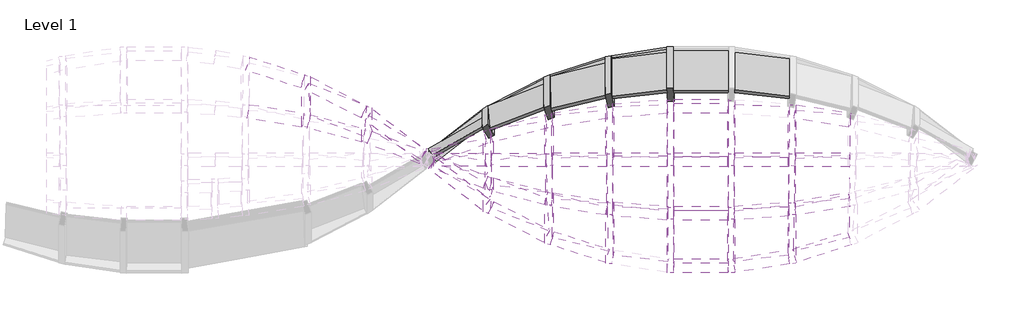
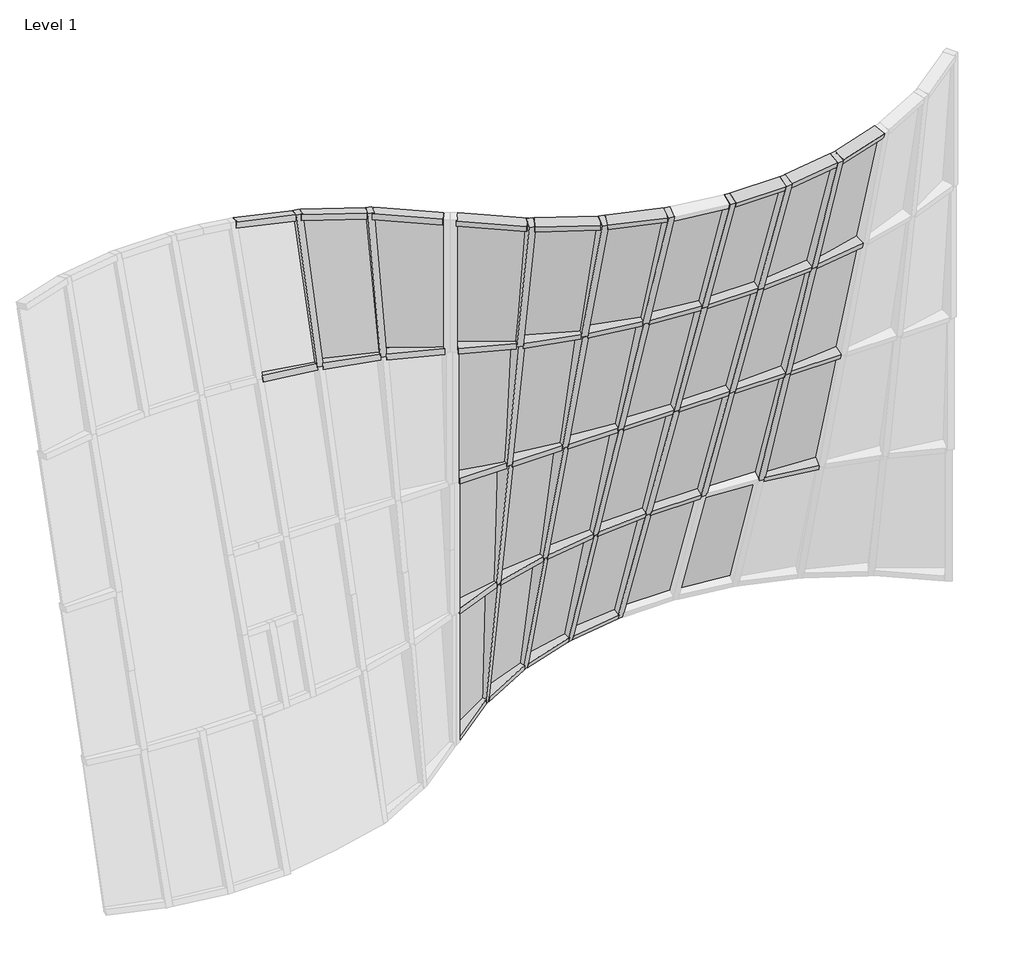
# One storey, part 3 of 4: 60 members, 29 plates.
"""IFC4 building model written with IfcOpenShell, lengths in millimetres."""

from ifc_helpers import new_model, si_unit, origin, place, context, project, spatial, transform, mapped, element, save
from components import member_a996ce90, member_d50c8e34, member_4dd012e6, member_aebc5ed7, member_4cc729dc, member_c1705524, member_86815d37, member_7daf6d23, member_30bdb196, member_c58220af, member_a980948f, member_15c85785, member_6b4bb7dc, member_0a1a1ade, member_aaa03826, system_panel_glazed_6544bf7d, system_panel_glazed_33264784, system_panel_glazed_05b2a0f3, system_panel_glazed_f471192b, system_panel_glazed_7af170c0, system_panel_glazed_9d068737, system_panel_glazed_79271b8f, system_panel_glazed_da246a73, system_panel_glazed_13de8e61, system_panel_glazed_0ddebd79, system_panel_glazed_23b24e75, system_panel_glazed_40e690b2, system_panel_glazed_50119bff, system_panel_glazed_afc54b63, system_panel_glazed_be022af0, system_panel_glazed_1bc72f1c, system_panel_glazed_f1b1a658, system_panel_glazed_3298cdbc, system_panel_glazed_6a02450f, system_panel_glazed_dcd4434c, system_panel_glazed_1b8318ba, system_panel_glazed_7fcf35bf, system_panel_glazed_b76e6c00, system_panel_glazed_0f1dc422, system_panel_glazed_e9c23bf2, system_panel_glazed_1bf29829, system_panel_glazed_93994c43

model = new_model("IFC4")

# Units and contexts
model_context = context("Model", 3, world=origin())
ifc_project = project(units=[si_unit("LENGTHUNIT", "METRE", prefix="MILLI")], contexts=[model_context])

# Site, building, storey
site = spatial("IfcSite", under=ifc_project)
building = spatial("IfcBuilding", under=site)
storey = spatial("IfcBuildingStorey", under=building, Name="Level 1", Elevation=0.0)

# Members
placement = place(None, origin())
member_shape = member_a996ce90(model_context)
element("IfcMember", 1, ObjectType="Rectangular Mullion : 2.5\" x 5\" rectangular", at=placement, inside=storey, context=model_context, shape_type="MappedRepresentation", body=[
    mapped(member_shape, transform((-21956.9397927, 10838.1323132, 6096.0), x_axis=(-0.04115165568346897, -0.053251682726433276, 0.99773282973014), y_axis=(0.6100856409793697, 0.7894721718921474, 0.06729933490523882), z_axis=(-0.7912661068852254, 0.6114719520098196, 0.0))),
])
element("IfcMember", 2, ObjectType="Rectangular Mullion : 2.5\" x 5\" rectangular", at=placement, inside=storey, context=model_context, shape_type="MappedRepresentation", body=[
    mapped(member_shape, transform((-22591.6624916, 11328.6311787, 6096.0), x_axis=(0.04115165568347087, 0.0532516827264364, 0.9977328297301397), y_axis=(0.6100856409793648, 0.7894721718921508, -0.06729933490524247), z_axis=(-0.7912661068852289, 0.6114719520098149, 0.0))),
])
member_2_shape = member_d50c8e34(model_context)
element("IfcMember", 3, ObjectType="Rectangular Mullion : 2.5\" x 5\" rectangular", at=placement, inside=storey, context=model_context, shape_type="MappedRepresentation", body=[
    mapped(member_2_shape, transform((-18318.235423, 11362.3037626, 1524.0), x_axis=(-0.04785641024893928, -0.2985412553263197, 0.9531961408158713), y_axis=(0.1508719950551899, 0.941180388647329, 0.30235263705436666), z_axis=(-0.9873942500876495, 0.15828011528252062, 0.0))),
])
element("IfcMember", 4, ObjectType="Rectangular Mullion : 2.5\" x 5\" rectangular", at=placement, inside=storey, context=model_context, shape_type="MappedRepresentation", body=[
    mapped(member_2_shape, transform((-23804.635423, 11362.3037626, 4572.0), x_axis=(0.04785641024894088, 0.29854125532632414, 0.9531961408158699), y_axis=(0.1508719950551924, 0.9411803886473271, -0.30235263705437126), z_axis=(-0.9873942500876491, 0.1582801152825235, 0.0))),
])
member_3_shape = member_4dd012e6(model_context)
element("IfcMember", 5, ObjectType="Rectangular Mullion : 2.5\" x 5\" rectangular", at=placement, inside=storey, context=model_context, shape_type="MappedRepresentation", body=[
    mapped(member_3_shape, transform((-22587.1690954, 11101.0597847, 4572.0), x_axis=(0.05046578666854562, 0.1306089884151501, 0.9901487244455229), y_axis=(0.35686871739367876, 0.9236012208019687, -0.1400196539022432), z_axis=(-0.9327903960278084, 0.36041930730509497, 0.0))),
])
member_4_shape = member_aebc5ed7(model_context)
element("IfcMember", 6, ObjectType="Rectangular Mullion : 2.5\" x 5\" rectangular", at=placement, inside=storey, context=model_context, shape_type="MappedRepresentation", body=[
    mapped(member_4_shape, transform((-23195.6398311, 11261.6860495, 4572.0), x_axis=(0.060122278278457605, 0.2332844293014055, 0.9705481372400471), y_axis=(0.24221587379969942, 0.939837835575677, -0.24090727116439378), z_axis=(-0.9683577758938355, 0.2495660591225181, 0.0))),
])
member_5_shape = member_4cc729dc(model_context)
element("IfcMember", 7, ObjectType="Rectangular Mullion : 2.5\" x 5\" rectangular", at=placement, inside=storey, context=model_context, shape_type="MappedRepresentation", body=[
    mapped(member_5_shape, transform((-21397.5851905, 11112.5030977, 1524.0), x_axis=(-0.954910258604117, -0.29341086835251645, -0.045348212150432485), y_axis=(-0.2968945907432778, 0.9437054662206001, 0.1458547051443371), z_axis=(0.0, 0.15274179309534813, -0.988266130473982))),
])
member_6_shape = member_c1705524(model_context)
element("IfcMember", 8, ObjectType="Rectangular Mullion : 2.5\" x 5\" rectangular", at=placement, inside=storey, context=model_context, shape_type="MappedRepresentation", body=[
    mapped(member_6_shape, transform((-20787.9851905, 10484.3117925, 4572.0), x_axis=(-0.9807393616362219, 0.18914416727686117, 0.04873180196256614), y_axis=(0.1953210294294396, 0.9497243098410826, 0.24469047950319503), z_axis=(0.0, 0.2494959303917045, -0.9683758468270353))),
])
element("IfcMember", 9, ObjectType="Rectangular Mullion : 2.5\" x 5\" rectangular", at=placement, inside=storey, context=model_context, shape_type="MappedRepresentation", body=[
    mapped(member_6_shape, transform((-20787.9851905, 10876.9607822, 3048.0), x_axis=(-1.0, 0.0, 0.0), y_axis=(0.0, 0.968375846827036, 0.24949593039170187), z_axis=(0.0, 0.24949593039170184, -0.9683758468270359))),
])
element("IfcMember", 10, ObjectType="Rectangular Mullion : 2.5\" x 5\" rectangular", at=placement, inside=storey, context=model_context, shape_type="MappedRepresentation", body=[
    mapped(member_6_shape, transform((-20787.9851905, 11269.6097719, 1524.0), x_axis=(-0.9807393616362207, -0.18914416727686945, -0.0487318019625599), y_axis=(-0.19532102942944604, 0.9497243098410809, 0.24469047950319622), z_axis=(0.0, 0.24949593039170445, -0.9683758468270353))),
])
member_7_shape = member_86815d37(model_context)
element("IfcMember", 11, ObjectType="Rectangular Mullion : 2.5\" x 5\" rectangular", at=placement, inside=storey, context=model_context, shape_type="MappedRepresentation", body=[
    mapped(member_7_shape, transform((-20178.3851905, 10386.5924081, 4572.0), x_axis=(-0.9938324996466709, 0.10556171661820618, 0.033965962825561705), y_axis=(0.11089167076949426, 0.9460644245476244, 0.30440949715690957), z_axis=(0.0, 0.3062985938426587, -0.9519354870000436))),
])
element("IfcMember", 12, ObjectType="Rectangular Mullion : 2.5\" x 5\" rectangular", at=placement, inside=storey, context=model_context, shape_type="MappedRepresentation", body=[
    mapped(member_7_shape, transform((-20178.3851905, 10876.9607822, 3048.0), x_axis=(-1.0, 0.0, 0.0), y_axis=(0.0, 0.9519354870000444, 0.3062985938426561), z_axis=(0.0, 0.3062985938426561, -0.9519354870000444))),
])
element("IfcMember", 13, ObjectType="Rectangular Mullion : 2.5\" x 5\" rectangular", at=placement, inside=storey, context=model_context, shape_type="MappedRepresentation", body=[
    mapped(member_7_shape, transform((-18349.5851905, 10876.9607822, 3048.0), x_axis=(-1.0, 0.0, 0.0), y_axis=(0.0, 0.9519354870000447, 0.3062985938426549), z_axis=(0.0, 0.3062985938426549, -0.9519354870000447))),
])
element("IfcMember", 14, ObjectType="Rectangular Mullion : 2.5\" x 5\" rectangular", at=placement, inside=storey, context=model_context, shape_type="MappedRepresentation", body=[
    mapped(member_7_shape, transform((-18349.5851905, 11367.3291563, 1524.0), x_axis=(-0.9938324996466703, 0.10556171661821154, 0.03396596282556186), y_axis=(0.1108916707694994, 0.9460644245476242, 0.3044094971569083), z_axis=(0.0, 0.3062985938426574, -0.9519354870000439))),
])
element("IfcMember", 15, ObjectType="Rectangular Mullion : 2.5\" x 5\" rectangular", at=placement, inside=storey, context=model_context, shape_type="MappedRepresentation", body=[
    mapped(member_7_shape, transform((-20178.3851905, 11367.3291563, 1524.0), x_axis=(-0.9938324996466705, -0.10556171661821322, -0.03396596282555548), y_axis=(-0.11089167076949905, 0.9460644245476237, 0.30440949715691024), z_axis=(0.0, 0.3062985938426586, -0.9519354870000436))),
])
member_8_shape = member_7daf6d23(model_context)
element("IfcMember", 16, ObjectType="Rectangular Mullion : 2.5\" x 5\" rectangular", at=placement, inside=storey, context=model_context, shape_type="MappedRepresentation", body=[
    mapped(member_8_shape, transform((-19568.7851905, 10339.5247375, 4572.0), x_axis=(-0.999353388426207, 0.03390889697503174, 0.011957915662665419), y_axis=(0.03595559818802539, 0.942467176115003, 0.33235946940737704), z_axis=(0.0, 0.3325745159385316, -0.9430769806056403))),
])
element("IfcMember", 17, ObjectType="Rectangular Mullion : 2.5\" x 5\" rectangular", at=placement, inside=storey, context=model_context, shape_type="MappedRepresentation", body=[
    mapped(member_8_shape, transform((-19568.7851905, 10876.9607822, 3048.0), x_axis=(-1.0, 0.0, 0.0), y_axis=(0.0, 0.9430769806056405, 0.33257451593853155), z_axis=(0.0, 0.33257451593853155, -0.9430769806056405))),
])
element("IfcMember", 18, ObjectType="Rectangular Mullion : 2.5\" x 5\" rectangular", at=placement, inside=storey, context=model_context, shape_type="MappedRepresentation", body=[
    mapped(member_8_shape, transform((-18959.1851905, 10876.9607822, 3048.0), x_axis=(-1.0, 0.0, 0.0), y_axis=(0.0, 0.9430769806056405, 0.33257451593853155), z_axis=(0.0, 0.33257451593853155, -0.9430769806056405))),
])
element("IfcMember", 19, ObjectType="Rectangular Mullion : 2.5\" x 5\" rectangular", at=placement, inside=storey, context=model_context, shape_type="MappedRepresentation", body=[
    mapped(member_8_shape, transform((-18959.1851905, 11414.3968269, 1524.0), x_axis=(-0.9993533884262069, 0.03390889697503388, 0.01195791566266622), y_axis=(0.03595559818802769, 0.9424671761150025, 0.33235946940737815), z_axis=(0.0, 0.33257451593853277, -0.9430769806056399))),
])
element("IfcMember", 20, ObjectType="Rectangular Mullion : 2.5\" x 5\" rectangular", at=placement, inside=storey, context=model_context, shape_type="MappedRepresentation", body=[
    mapped(member_8_shape, transform((-19568.7851905, 11414.3968269, 1524.0), x_axis=(-0.9993533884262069, -0.03390889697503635, -0.011957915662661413), y_axis=(-0.03595559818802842, 0.9424671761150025, 0.33235946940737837), z_axis=(0.0, 0.33257451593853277, -0.9430769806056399))),
])
element("IfcMember", 21, ObjectType="Rectangular Mullion : 2.5\" x 5\" rectangular", at=placement, inside=storey, context=model_context, shape_type="MappedRepresentation", body=[
    mapped(member_8_shape, transform((-18959.1851905, 10339.5247375, 4572.0), x_axis=(-0.9993533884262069, -0.03390889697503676, -0.01195791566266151), y_axis=(-0.035955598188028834, 0.9424671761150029, 0.3323594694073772), z_axis=(0.0, 0.3325745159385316, -0.9430769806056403))),
])
element("IfcMember", 22, ObjectType="Rectangular Mullion : 2.5\" x 5\" rectangular", at=placement, inside=storey, context=model_context, shape_type="MappedRepresentation", body=[
    mapped(member_7_shape, transform((-18349.5851905, 10386.5924081, 4572.0), x_axis=(-0.9938324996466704, -0.10556171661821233, -0.0339659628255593), y_axis=(-0.11089167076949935, 0.946064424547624, 0.3044094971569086), z_axis=(0.0, 0.30629859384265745, -0.9519354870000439))),
])
element("IfcMember", 23, ObjectType="Rectangular Mullion : 2.5\" x 5\" rectangular", at=placement, inside=storey, context=model_context, shape_type="MappedRepresentation", body=[
    mapped(member_6_shape, transform((-23226.3851905, 11269.6097719, 4572.0), x_axis=(-0.9807393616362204, 0.18914416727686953, -0.04873180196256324), y_axis=(0.19532102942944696, 0.9497243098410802, -0.24469047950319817), z_axis=(0.0, -0.249495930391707, -0.9683758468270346))),
])
element("IfcMember", 24, ObjectType="Rectangular Mullion : 2.5\" x 5\" rectangular", at=placement, inside=storey, context=model_context, shape_type="MappedRepresentation", body=[
    mapped(member_5_shape, transform((-22616.7851905, 11112.5030977, 4572.0), x_axis=(-0.9549102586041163, 0.29341086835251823, -0.04534821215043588), y_axis=(0.29689459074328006, 0.9437054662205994, -0.14585470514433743), z_axis=(0.0, -0.15274179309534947, -0.9882661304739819))),
])
element("IfcMember", 25, ObjectType="Rectangular Mullion : 2.5\" x 5\" rectangular", at=placement, inside=storey, context=model_context, shape_type="MappedRepresentation", body=[
    mapped(member_5_shape, transform((-21397.5851905, 10876.9607822, 3048.0), x_axis=(-1.0, 0.0, 0.0), y_axis=(0.0, 0.9882661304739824, 0.15274179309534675), z_axis=(0.0, 0.15274179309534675, -0.9882661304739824))),
])
member_9_shape = member_30bdb196(model_context)
element("IfcMember", 26, ObjectType="Rectangular Mullion : 2.5\" x 5\" rectangular", at=placement, inside=storey, context=model_context, shape_type="MappedRepresentation", body=[
    mapped(member_9_shape, transform((-21369.3635847, 10391.3295547, 6096.0), x_axis=(-0.08697091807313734, -0.16873080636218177, 0.9818176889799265), y_axis=(0.4498301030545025, 0.8727077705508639, 0.18982630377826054), z_axis=(-0.8888694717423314, 0.4581605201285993, 0.0))),
])
element("IfcMember", 27, ObjectType="Rectangular Mullion : 2.5\" x 5\" rectangular", at=placement, inside=storey, context=model_context, shape_type="MappedRepresentation", body=[
    mapped(member_9_shape, transform((-23198.1635847, 11647.7121651, 6096.0), x_axis=(0.08697091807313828, 0.16873080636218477, 0.9818176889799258), y_axis=(0.44983010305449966, 0.8727077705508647, -0.18982630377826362), z_axis=(-0.8888694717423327, 0.4581605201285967, 0.0))),
])
member_10_shape = member_c58220af(model_context)
element("IfcMember", 28, ObjectType="Rectangular Mullion : 2.5\" x 5\" rectangular", at=placement, inside=storey, context=model_context, shape_type="MappedRepresentation", body=[
    mapped(member_10_shape, transform((-20757.7510086, 10081.969674, 6096.0), x_axis=(-0.08298521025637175, -0.2588421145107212, 0.9623482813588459), y_axis=(0.2938004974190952, 0.9164035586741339, 0.2718193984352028), z_axis=(-0.952257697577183, 0.30529539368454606, 0.0))),
])
element("IfcMember", 29, ObjectType="Rectangular Mullion : 2.5\" x 5\" rectangular", at=placement, inside=storey, context=model_context, shape_type="MappedRepresentation", body=[
    mapped(member_10_shape, transform((-23805.7510086, 11848.0044017, 6096.0), x_axis=(0.08298521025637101, 0.2588421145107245, 0.9623482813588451), y_axis=(0.2938004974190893, 0.9164035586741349, -0.2718193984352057), z_axis=(-0.952257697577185, 0.30529539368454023, 0.0))),
])
member_11_shape = member_a980948f(model_context)
element("IfcMember", 30, ObjectType="Rectangular Mullion : 2.5\" x 5\" rectangular", at=placement, inside=storey, context=model_context, shape_type="MappedRepresentation", body=[
    mapped(member_11_shape, transform((-19537.0351905, 9802.0886928, 6096.0), x_axis=(0.0, -0.3325745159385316, 0.9430769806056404), y_axis=(0.0, 0.9430769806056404, 0.3325745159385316), z_axis=(-1.0, 0.0, 0.0))),
])
member_12_shape = member_15c85785(model_context)
element("IfcMember", 31, ObjectType="Rectangular Mullion : 2.5\" x 5\" rectangular", at=placement, inside=storey, context=model_context, shape_type="MappedRepresentation", body=[
    mapped(member_12_shape, transform((-18927.8071072, 9806.9341432, 6096.0), x_axis=(0.048504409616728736, -0.31410400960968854, 0.9481487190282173), y_axis=(-0.14469945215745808, 0.9370421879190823, 0.31782700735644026), z_axis=(-0.9882860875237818, -0.1526126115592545, 0.0))),
])
element("IfcMember", 32, ObjectType="Rectangular Mullion : 2.5\" x 5\" rectangular", at=placement, inside=storey, context=model_context, shape_type="MappedRepresentation", body=[
    mapped(member_10_shape, transform((-18319.3510086, 9905.9171627, 6096.0), x_axis=(0.08298521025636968, -0.2588421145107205, 0.9623482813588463), y_axis=(-0.2938004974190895, 0.9164035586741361, 0.27181939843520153), z_axis=(-0.952257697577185, -0.30529539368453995, 0.0))),
])
element("IfcMember", 33, ObjectType="Rectangular Mullion : 2.5\" x 5\" rectangular", at=placement, inside=storey, context=model_context, shape_type="MappedRepresentation", body=[
    mapped(member_shape, transform((-21422.7078894, 11328.6311787, 0.0), x_axis=(-0.04115165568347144, 0.053251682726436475, -0.9977328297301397), y_axis=(-0.6100856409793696, 0.7894721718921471, 0.06729933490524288), z_axis=(0.7912661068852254, 0.6114719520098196, 0.0))),
])
element("IfcMember", 34, ObjectType="Rectangular Mullion : 2.5\" x 5\" rectangular", at=placement, inside=storey, context=model_context, shape_type="MappedRepresentation", body=[
    mapped(member_9_shape, transform((-20816.2067962, 11647.7121651, 0.0), x_axis=(-0.08697091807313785, 0.16873080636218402, -0.981817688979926), y_axis=(-0.4498301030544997, 0.8727077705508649, 0.1898263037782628), z_axis=(0.8888694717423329, 0.4581605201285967, 0.0))),
])
element("IfcMember", 35, ObjectType="Rectangular Mullion : 2.5\" x 5\" rectangular", at=placement, inside=storey, context=model_context, shape_type="MappedRepresentation", body=[
    mapped(member_10_shape, transform((-20208.6193724, 11848.0044017, 0.0), x_axis=(-0.08298521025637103, 0.25884211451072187, -0.9623482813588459), y_axis=(-0.2938004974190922, 0.9164035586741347, 0.2718193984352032), z_axis=(0.952257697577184, 0.305295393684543, 0.0))),
])
element("IfcMember", 36, ObjectType="Rectangular Mullion : 2.5\" x 5\" rectangular", at=placement, inside=storey, context=model_context, shape_type="MappedRepresentation", body=[
    mapped(member_12_shape, transform((-19600.1632738, 11946.9874211, 0.0), x_axis=(-0.048504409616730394, 0.3141040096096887, -0.9481487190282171), y_axis=(-0.1446994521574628, 0.9370421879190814, 0.3178270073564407), z_axis=(0.988286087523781, 0.1526126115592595, 0.0))),
])
element("IfcMember", 37, ObjectType="Rectangular Mullion : 2.5\" x 5\" rectangular", at=placement, inside=storey, context=model_context, shape_type="MappedRepresentation", body=[
    mapped(member_3_shape, transform((-21947.9530003, 10854.0741562, 4572.0), x_axis=(-0.005725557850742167, -0.014818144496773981, 0.9998738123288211), y_axis=(0.3603738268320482, 0.9326726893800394, 0.01588582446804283), z_axis=(-0.9327903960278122, 0.360419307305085, 0.0))),
])
element("IfcMember", 38, ObjectType="Rectangular Mullion : 2.5\" x 5\" rectangular", at=placement, inside=storey, context=model_context, shape_type="MappedRepresentation", body=[
    mapped(member_4_shape, transform((-21366.8398311, 10633.4947443, 4572.0), x_axis=(-0.037931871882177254, -0.14718196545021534, 0.9883818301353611), y_axis=(0.24666655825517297, 0.9571072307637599, 0.15199130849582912), z_axis=(-0.9683577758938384, 0.24956605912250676, 0.0))),
])
element("IfcMember", 39, ObjectType="Rectangular Mullion : 2.5\" x 5\" rectangular", at=placement, inside=storey, context=model_context, shape_type="MappedRepresentation", body=[
    mapped(member_2_shape, transform((-20756.635423, 10479.2863988, 4572.0), x_axis=(-0.0393787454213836, -0.2456552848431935, 0.9685570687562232), y_axis=(0.1533033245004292, 0.9563476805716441, 0.24879148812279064), z_axis=(-0.9873942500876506, 0.15828011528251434, 0.0))),
])
member_13_shape = member_6b4bb7dc(model_context)
element("IfcMember", 40, ObjectType="Rectangular Mullion : 2.5\" x 5\" rectangular", at=placement, inside=storey, context=model_context, shape_type="MappedRepresentation", body=[
    mapped(member_13_shape, transform((-20146.7294082, 10384.1482415, 4572.0), x_axis=(-0.023614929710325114, -0.3058502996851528, 0.9517867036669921), y_axis=(0.07327008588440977, 0.9489622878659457, 0.3067606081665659), z_axis=(-0.9970325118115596, 0.07698162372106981, 0.0))),
])
member_14_shape = member_0a1a1ade(model_context)
element("IfcMember", 41, ObjectType="Rectangular Mullion : 2.5\" x 5\" rectangular", at=placement, inside=storey, context=model_context, shape_type="MappedRepresentation", body=[
    mapped(member_14_shape, transform((-19537.0351905, 10339.5247375, 4572.0), x_axis=(0.0, -0.33320538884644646, 0.9428542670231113), y_axis=(0.0, 0.9428542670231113, 0.33320538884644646), z_axis=(-1.0, 0.0, 0.0))),
])
element("IfcMember", 42, ObjectType="Rectangular Mullion : 2.5\" x 5\" rectangular", at=placement, inside=storey, context=model_context, shape_type="MappedRepresentation", body=[
    mapped(member_13_shape, transform((-18927.5294082, 10341.9689041, 4572.0), x_axis=(0.025541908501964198, -0.3308076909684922, 0.9433524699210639), y_axis=(-0.0726208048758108, 0.9405530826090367, 0.3317922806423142), z_axis=(-0.9970325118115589, -0.07698162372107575, 0.0))),
])
element("IfcMember", 43, ObjectType="Rectangular Mullion : 2.5\" x 5\" rectangular", at=placement, inside=storey, context=model_context, shape_type="MappedRepresentation", body=[
    mapped(member_2_shape, transform((-18318.235423, 10391.6178017, 4572.0), x_axis=(0.04785641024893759, -0.2985412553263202, 0.9531961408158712), y_axis=(-0.15087199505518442, 0.9411803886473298, 0.302352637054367), z_axis=(-0.9873942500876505, -0.1582801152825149, 0.0))),
])
element("IfcMember", 44, ObjectType="Rectangular Mullion : 2.5\" x 5\" rectangular", at=placement, inside=storey, context=model_context, shape_type="MappedRepresentation", body=[
    mapped(member_5_shape, transform((-21397.5851905, 11348.0454131, 0.0), x_axis=(-0.8492070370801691, -0.5218638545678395, -0.0806568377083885), y_axis=(-0.5280600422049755, 0.8392425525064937, 0.12970940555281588), z_axis=(0.0, 0.15274179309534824, -0.988266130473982))),
])
element("IfcMember", 45, ObjectType="Rectangular Mullion : 2.5\" x 5\" rectangular", at=placement, inside=storey, context=model_context, shape_type="MappedRepresentation", body=[
    mapped(member_6_shape, transform((-20787.9851905, 11662.2587616, 0.0), x_axis=(-0.9290158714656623, -0.35833767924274, -0.09232344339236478), y_axis=(-0.37003987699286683, 0.8996365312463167, 0.23178567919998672), z_axis=(0.0, 0.24949593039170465, -0.9683758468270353))),
])
element("IfcMember", 46, ObjectType="Rectangular Mullion : 2.5\" x 5\" rectangular", at=placement, inside=storey, context=model_context, shape_type="MappedRepresentation", body=[
    mapped(member_7_shape, transform((-20178.3851905, 11857.6975304, 0.0), x_axis=(-0.9759929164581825, -0.20733370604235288, -0.06671252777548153), y_axis=(-0.21780226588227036, 0.929082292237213, 0.29894525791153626), z_axis=(0.0, 0.30629859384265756, -0.9519354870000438))),
])
element("IfcMember", 47, ObjectType="Rectangular Mullion : 2.5\" x 5\" rectangular", at=placement, inside=storey, context=model_context, shape_type="MappedRepresentation", body=[
    mapped(member_8_shape, transform((-19568.7851905, 11951.8328716, 0.0), x_axis=(-0.9974210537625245, -0.06768666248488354, -0.023869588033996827), y_axis=(-0.0717721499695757, 0.9406448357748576, 0.331716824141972), z_axis=(0.0, 0.33257451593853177, -0.9430769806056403))),
])
member_15_shape = member_aaa03826(model_context)
element("IfcMember", 48, ObjectType="Rectangular Mullion : 2.5\" x 5\" rectangular", at=placement, inside=storey, context=model_context, shape_type="MappedRepresentation", body=[
    mapped(member_15_shape, transform((-21943.6851905, 10876.9607822, 3048.0), x_axis=(0.0, -0.01915147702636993, 0.9998165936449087), y_axis=(0.0, 0.9998165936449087, 0.01915147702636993), z_axis=(-1.0, 0.0, 0.0))),
])
element("IfcMember", 49, ObjectType="Rectangular Mullion : 2.5\" x 5\" rectangular", at=placement, inside=storey, context=model_context, shape_type="MappedRepresentation", body=[
    mapped(member_14_shape, transform((-21365.8351905, 10876.9607822, 3048.0), x_axis=(0.0, -0.1589934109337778, 0.9872796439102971), y_axis=(0.0, 0.9872796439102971, 0.1589934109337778), z_axis=(-1.0, 0.0, 0.0))),
])
element("IfcMember", 50, ObjectType="Rectangular Mullion : 2.5\" x 5\" rectangular", at=placement, inside=storey, context=model_context, shape_type="MappedRepresentation", body=[
    mapped(member_14_shape, transform((-20756.2351905, 10876.9607822, 3048.0), x_axis=(0.0, -0.25333361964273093, 0.9673789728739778), y_axis=(0.0, 0.9673789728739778, 0.25333361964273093), z_axis=(-1.0, 0.0, 0.0))),
])
element("IfcMember", 51, ObjectType="Rectangular Mullion : 2.5\" x 5\" rectangular", at=placement, inside=storey, context=model_context, shape_type="MappedRepresentation", body=[
    mapped(member_14_shape, transform((-20146.6351905, 10876.9607822, 3048.0), x_axis=(0.0, -0.30836440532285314, 0.9512683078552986), y_axis=(0.0, 0.9512683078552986, 0.30836440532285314), z_axis=(-1.0, 0.0, 0.0))),
])
element("IfcMember", 52, ObjectType="Rectangular Mullion : 2.5\" x 5\" rectangular", at=placement, inside=storey, context=model_context, shape_type="MappedRepresentation", body=[
    mapped(member_14_shape, transform((-19537.0351905, 10876.9607822, 3048.0), x_axis=(0.0, -0.33320604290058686, 0.9428540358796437), y_axis=(0.0, 0.9428540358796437, 0.33320604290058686), z_axis=(-1.0, 0.0, 0.0))),
])
element("IfcMember", 53, ObjectType="Rectangular Mullion : 2.5\" x 5\" rectangular", at=placement, inside=storey, context=model_context, shape_type="MappedRepresentation", body=[
    mapped(member_14_shape, transform((-18927.4351905, 10876.9607822, 3048.0), x_axis=(0.0, -0.3318726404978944, 0.9433242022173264), y_axis=(0.0, 0.9433242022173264, 0.3318726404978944), z_axis=(-1.0, 0.0, 0.0))),
])
element("IfcMember", 54, ObjectType="Rectangular Mullion : 2.5\" x 5\" rectangular", at=placement, inside=storey, context=model_context, shape_type="MappedRepresentation", body=[
    mapped(member_14_shape, transform((-18317.8351905, 10876.9607822, 3048.0), x_axis=(0.0, -0.304151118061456, 0.9526237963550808), y_axis=(0.0, 0.9526237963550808, 0.304151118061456), z_axis=(-1.0, 0.0, 0.0))),
])
element("IfcMember", 55, ObjectType="Rectangular Mullion : 2.5\" x 5\" rectangular", at=placement, inside=storey, context=model_context, shape_type="MappedRepresentation", body=[
    mapped(member_3_shape, transform((-21947.9530003, 10899.8474082, 1524.0), x_axis=(0.005725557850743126, -0.014818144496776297, 0.9998738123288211), y_axis=(-0.36037382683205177, 0.9326726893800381, 0.01588582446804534), z_axis=(-0.9327903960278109, -0.36041930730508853, 0.0))),
])
element("IfcMember", 56, ObjectType="Rectangular Mullion : 2.5\" x 5\" rectangular", at=placement, inside=storey, context=model_context, shape_type="MappedRepresentation", body=[
    mapped(member_4_shape, transform((-21366.8398311, 11120.42682, 1524.0), x_axis=(0.037931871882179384, -0.1471819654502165, 0.9883818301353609), y_axis=(-0.24666655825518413, 0.9571072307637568, 0.15199130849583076), z_axis=(-0.9683577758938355, -0.2495660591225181, 0.0))),
])
element("IfcMember", 57, ObjectType="Rectangular Mullion : 2.5\" x 5\" rectangular", at=placement, inside=storey, context=model_context, shape_type="MappedRepresentation", body=[
    mapped(member_2_shape, transform((-20756.635423, 11274.6351656, 1524.0), x_axis=(0.03937874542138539, -0.2456552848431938, 0.968557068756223), y_axis=(-0.1533033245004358, 0.956347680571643, 0.24879148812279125), z_axis=(-0.9873942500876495, -0.15828011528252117, 0.0))),
])
element("IfcMember", 58, ObjectType="Rectangular Mullion : 2.5\" x 5\" rectangular", at=placement, inside=storey, context=model_context, shape_type="MappedRepresentation", body=[
    mapped(member_13_shape, transform((-20146.7294082, 11369.7733228, 1524.0), x_axis=(0.02361492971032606, -0.3058502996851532, 0.9517867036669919), y_axis=(-0.0732700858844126, 0.9489622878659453, 0.3067606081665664), z_axis=(-0.9970325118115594, -0.0769816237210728, 0.0))),
])
element("IfcMember", 59, ObjectType="Rectangular Mullion : 2.5\" x 5\" rectangular", at=placement, inside=storey, context=model_context, shape_type="MappedRepresentation", body=[
    mapped(member_14_shape, transform((-19537.0351905, 11414.3968269, 1524.0), x_axis=(0.0, -0.3332053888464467, 0.9428542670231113), y_axis=(0.0, 0.9428542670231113, 0.3332053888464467), z_axis=(-1.0, 0.0, 0.0))),
])
element("IfcMember", 60, ObjectType="Rectangular Mullion : 2.5\" x 5\" rectangular", at=placement, inside=storey, context=model_context, shape_type="MappedRepresentation", body=[
    mapped(member_5_shape, transform((-21397.5851905, 10641.4184667, 4572.0), x_axis=(-0.954910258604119, 0.2934108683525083, 0.045348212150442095), y_axis=(0.2968945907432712, 0.9437054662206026, 0.14585470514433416), z_axis=(0.0, 0.15274179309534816, -0.988266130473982))),
])

# Plates
system_panel_glazed_shape = system_panel_glazed_6544bf7d(model_context)
element("IfcPlate", 61, ObjectType="System Panel : Glazed", at=placement, inside=storey, context=model_context, shape_type="MappedRepresentation", body=[
    mapped(system_panel_glazed_shape, transform((-18013.2655441, 11306.9063795, 1555.193136), x_axis=(-0.9960766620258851, 0.08594522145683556, -0.02108796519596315), y_axis=(-0.07675776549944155, -0.9576714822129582, -0.2774411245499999), z_axis=(-0.04404008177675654, -0.27473396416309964, 0.9605111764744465))),
])
system_panel_glazed_2_shape = system_panel_glazed_33264784(model_context)
element("IfcPlate", 62, ObjectType="System Panel : Glazed", at=placement, inside=storey, context=model_context, shape_type="MappedRepresentation", body=[
    mapped(system_panel_glazed_2_shape, transform((-18044.7826233, 10868.1261516, 3078.4960949), x_axis=(-0.9970497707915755, -0.07372623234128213, -0.021358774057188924), y_axis=(0.0767577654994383, -0.9576714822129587, -0.27744112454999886), z_axis=(0.0, -0.2782620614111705, 0.9605051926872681))),
])
system_panel_glazed_3_shape = system_panel_glazed_05b2a0f3(model_context)
element("IfcPlate", 63, ObjectType="System Panel : Glazed", at=placement, inside=storey, context=model_context, shape_type="MappedRepresentation", body=[
    mapped(system_panel_glazed_3_shape, transform((-18619.0322988, 11880.2193533, 60.6495804), x_axis=(-0.992847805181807, 0.11883929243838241, -0.011421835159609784), y_axis=(-0.10908967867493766, -0.941921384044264, -0.31762170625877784), z_axis=(-0.04850440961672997, -0.3141040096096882, 0.9481487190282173))),
])
system_panel_glazed_4_shape = system_panel_glazed_f471192b(model_context)
element("IfcPlate", 64, ObjectType="System Panel : Glazed", at=placement, inside=storey, context=model_context, shape_type="MappedRepresentation", body=[
    mapped(system_panel_glazed_4_shape, transform((-18635.8652698, 11379.9271105, 1554.3105739), x_axis=(-0.9990287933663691, 0.0424950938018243, -0.011646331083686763), y_axis=(-0.036557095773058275, -0.9469432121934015, -0.31931509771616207), z_axis=(-0.024597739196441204, -0.3185792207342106, 0.9475770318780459))),
])
system_panel_glazed_5_shape = system_panel_glazed_7af170c0(model_context)
element("IfcPlate", 65, ObjectType="System Panel : Glazed", at=placement, inside=storey, context=model_context, shape_type="MappedRepresentation", body=[
    mapped(system_panel_glazed_5_shape, transform((-18654.3848695, 10866.8157577, 3078.0855609), x_axis=(-0.999331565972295, -0.03464064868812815, -0.011681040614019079), y_axis=(0.036557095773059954, -0.946943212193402, -0.3193150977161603), z_axis=(0.0, -0.31952868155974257, 0.9475766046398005))),
])
system_panel_glazed_6_shape = system_panel_glazed_9d068737(model_context)
element("IfcPlate", 66, ObjectType="System Panel : Glazed", at=placement, inside=storey, context=model_context, shape_type="MappedRepresentation", body=[
    mapped(system_panel_glazed_6_shape, transform((-19263.9851905, 11930.7143898, 59.8853883), x_axis=(-1.0, 0.0, 0.0), y_axis=(0.0, -0.9430769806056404, -0.3325745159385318), z_axis=(0.0, -0.3325745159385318, 0.9430769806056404))),
])
element("IfcPlate", 67, ObjectType="System Panel : Glazed", at=placement, inside=storey, context=model_context, shape_type="MappedRepresentation", body=[
    mapped(system_panel_glazed_6_shape, transform((-19263.9851905, 10328.9654966, 4601.9426941), x_axis=(-1.0, 0.0, 0.0), y_axis=(0.0, -0.9430769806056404, -0.3325745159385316), z_axis=(0.0, -0.3325745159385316, 0.9430769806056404))),
])
system_panel_glazed_7_shape = system_panel_glazed_79271b8f(model_context)
element("IfcPlate", 68, ObjectType="System Panel : Glazed", at=placement, inside=storey, context=model_context, shape_type="MappedRepresentation", body=[
    mapped(system_panel_glazed_7_shape, transform((-19263.9851905, 11403.837586, 1553.9426941), x_axis=(-1.0, 0.0, 0.0), y_axis=(0.0, -0.9430769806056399, -0.33257451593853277), z_axis=(0.0, -0.33257451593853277, 0.9430769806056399))),
])
element("IfcPlate", 69, ObjectType="System Panel : Glazed", at=placement, inside=storey, context=model_context, shape_type="MappedRepresentation", body=[
    mapped(system_panel_glazed_7_shape, transform((-19263.9851905, 10866.4015413, 3077.9426941), x_axis=(-1.0, 0.0, 0.0), y_axis=(0.0, -0.9430769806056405, -0.33257451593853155), z_axis=(0.0, -0.33257451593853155, 0.9430769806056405))),
])
system_panel_glazed_8_shape = system_panel_glazed_da246a73(model_context)
element("IfcPlate", 70, ObjectType="System Panel : Glazed", at=placement, inside=storey, context=model_context, shape_type="MappedRepresentation", body=[
    mapped(system_panel_glazed_8_shape, transform((-19908.9380821, 11880.2193533, 60.6495804), x_axis=(-0.9928478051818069, -0.11883929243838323, 0.011421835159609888), y_axis=(0.10908967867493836, -0.9419213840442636, -0.3176217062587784), z_axis=(0.0485044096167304, -0.31410400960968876, 0.9481487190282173))),
])
system_panel_glazed_9_shape = system_panel_glazed_13de8e61(model_context)
element("IfcPlate", 71, ObjectType="System Panel : Glazed", at=placement, inside=storey, context=model_context, shape_type="MappedRepresentation", body=[
    mapped(system_panel_glazed_9_shape, transform((-19892.1051112, 11379.9271105, 1554.3105739), x_axis=(-0.999028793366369, -0.04249509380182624, 0.011646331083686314), y_axis=(0.03655709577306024, -0.9469432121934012, -0.31931509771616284), z_axis=(0.024597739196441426, -0.31857922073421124, 0.9475770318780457))),
])
system_panel_glazed_10_shape = system_panel_glazed_0ddebd79(model_context)
element("IfcPlate", 72, ObjectType="System Panel : Glazed", at=placement, inside=storey, context=model_context, shape_type="MappedRepresentation", body=[
    mapped(system_panel_glazed_10_shape, transform((-19873.5855114, 10866.8157577, 3078.0855609), x_axis=(-0.9993315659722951, 0.034640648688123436, 0.01168104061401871), y_axis=(-0.03655709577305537, -0.946943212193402, -0.3193150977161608), z_axis=(0.0, -0.31952868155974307, 0.9475766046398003))),
])
system_panel_glazed_11_shape = system_panel_glazed_23b24e75(model_context)
element("IfcPlate", 73, ObjectType="System Panel : Glazed", at=placement, inside=storey, context=model_context, shape_type="MappedRepresentation", body=[
    mapped(system_panel_glazed_11_shape, transform((-20539.5385352, 11728.3673269, 62.3415494), x_axis=(-0.9708112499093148, -0.23905761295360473, 0.01941583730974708), y_axis=(0.22503104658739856, -0.9358697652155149, -0.2711250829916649), z_axis=(0.08298521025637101, -0.2588421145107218, 0.9623482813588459))),
])
system_panel_glazed_12_shape = system_panel_glazed_40e690b2(model_context)
element("IfcPlate", 74, ObjectType="System Panel : Glazed", at=placement, inside=storey, context=model_context, shape_type="MappedRepresentation", body=[
    mapped(system_panel_glazed_12_shape, transform((-20514.7048369, 11306.9063795, 1555.193136), x_axis=(-0.996076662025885, -0.08594522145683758, 0.02108796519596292), y_axis=(0.07675776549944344, -0.9576714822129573, -0.2774411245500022), z_axis=(0.04404008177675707, -0.2747339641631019, 0.9605111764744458))),
])
system_panel_glazed_13_shape = system_panel_glazed_50119bff(model_context)
element("IfcPlate", 75, ObjectType="System Panel : Glazed", at=placement, inside=storey, context=model_context, shape_type="MappedRepresentation", body=[
    mapped(system_panel_glazed_13_shape, transform((-20483.1877577, 10868.1261516, 3078.4960949), x_axis=(-0.9970497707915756, 0.07372623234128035, 0.02135877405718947), y_axis=(-0.07675776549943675, -0.9576714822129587, -0.2774411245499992), z_axis=(0.0, -0.27826206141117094, 0.960505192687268))),
])
system_panel_glazed_14_shape = system_panel_glazed_afc54b63(model_context)
element("IfcPlate", 76, ObjectType="System Panel : Glazed", at=placement, inside=storey, context=model_context, shape_type="MappedRepresentation", body=[
    mapped(system_panel_glazed_14_shape, transform((-21143.5789751, 11472.4185505, 63.5499102), x_axis=(-0.9311575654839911, -0.3640727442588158, 0.019915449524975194), y_axis=(0.3540927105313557, -0.9159590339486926, -0.1887787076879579), z_axis=(0.08697091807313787, -0.16873080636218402, 0.9818176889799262))),
])
system_panel_glazed_15_shape = system_panel_glazed_be022af0(model_context)
element("IfcPlate", 77, ObjectType="System Panel : Glazed", at=placement, inside=storey, context=model_context, shape_type="MappedRepresentation", body=[
    mapped(system_panel_glazed_15_shape, transform((-21125.3866131, 11180.2722809, 1555.9414612), x_axis=(-0.9908511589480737, -0.13272345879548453, 0.02446352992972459), y_axis=(0.12521457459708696, -0.9717067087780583, -0.20026827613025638), z_axis=(0.050351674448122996, -0.19537286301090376, 0.9794356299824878))),
])
system_panel_glazed_16_shape = system_panel_glazed_1bc72f1c(model_context)
element("IfcPlate", 78, ObjectType="System Panel : Glazed", at=placement, inside=storey, context=model_context, shape_type="MappedRepresentation", body=[
    mapped(system_panel_glazed_16_shape, transform((-21092.793161, 10870.5528091, 3079.0966298), x_axis=(-0.9921296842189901, 0.12263703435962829, 0.025275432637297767), y_axis=(-0.12521457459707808, -0.97170670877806, -0.20026827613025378), z_axis=(0.0, -0.20185695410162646, 0.9794150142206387))),
])
system_panel_glazed_17_shape = system_panel_glazed_f1b1a658(model_context)
element("IfcPlate", 79, ObjectType="System Panel : Glazed", at=placement, inside=storey, context=model_context, shape_type="MappedRepresentation", body=[
    mapped(system_panel_glazed_17_shape, transform((-21694.1874109, 11112.3628125, 63.2986863), x_axis=(-0.8648558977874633, -0.5019416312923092, 0.008881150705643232), y_axis=(0.5003307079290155, -0.8632605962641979, -0.06671076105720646), z_axis=(0.04115165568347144, -0.053251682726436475, 0.9977328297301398))),
])
system_panel_glazed_18_shape = system_panel_glazed_3298cdbc(model_context)
element("IfcPlate", 80, ObjectType="System Panel : Glazed", at=placement, inside=storey, context=model_context, shape_type="MappedRepresentation", body=[
    mapped(system_panel_glazed_18_shape, transform((-21696.5427394, 10993.4196586, 1555.5875069), x_axis=(-0.9815586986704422, -0.1906793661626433, 0.013560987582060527), y_axis=(0.18914299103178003, -0.9790306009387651, -0.07565719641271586), z_axis=(0.027702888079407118, -0.07169701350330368, 0.9970416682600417))),
])
system_panel_glazed_19_shape = system_panel_glazed_6a02450f(model_context)
element("IfcPlate", 81, ObjectType="System Panel : Glazed", at=placement, inside=storey, context=model_context, shape_type="MappedRepresentation", body=[
    mapped(system_panel_glazed_19_shape, transform((-21686.8117481, 10871.5236726, 3079.4244947), x_axis=(-0.9819495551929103, 0.18858074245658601, 0.014573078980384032), y_axis=(-0.189142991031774, -0.9790306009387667, -0.07565719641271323), z_axis=(0.0, -0.07704794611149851, 0.9970273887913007))),
])
system_panel_glazed_20_shape = system_panel_glazed_dcd4434c(model_context)
element("IfcPlate", 82, ObjectType="System Panel : Glazed", at=placement, inside=storey, context=model_context, shape_type="MappedRepresentation", body=[
    mapped(system_panel_glazed_20_shape, transform((-22360.552217, 11025.2822182, 4603.0785942), x_axis=(-0.8654921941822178, 0.5008122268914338, -0.010505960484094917), y_axis=(-0.5003307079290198, -0.8632605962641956, 0.06671076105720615), z_axis=(0.024340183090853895, 0.06299409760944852, 0.9977170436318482))),
])
system_panel_glazed_21_shape = system_panel_glazed_1b8318ba(model_context)
element("IfcPlate", 83, ObjectType="System Panel : Glazed", at=placement, inside=storey, context=model_context, shape_type="MappedRepresentation", body=[
    mapped(system_panel_glazed_21_shape, transform((-22968.401408, 11215.347558, 4602.04784), x_axis=(-0.9340071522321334, 0.3565934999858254, -0.021719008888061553), y_axis=(-0.3540927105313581, -0.9159590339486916, 0.18877870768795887), z_axis=(0.047423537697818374, 0.18401120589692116, 0.9817794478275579))),
])
system_panel_glazed_22_shape = system_panel_glazed_7fcf35bf(model_context)
element("IfcPlate", 84, ObjectType="System Panel : Glazed", at=placement, inside=storey, context=model_context, shape_type="MappedRepresentation", body=[
    mapped(system_panel_glazed_22_shape, transform((-18081.9137779, 10417.9035447, 4601.7577694), x_axis=(-0.9734008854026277, -0.2282219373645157, -0.020136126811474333), y_axis=(0.22503104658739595, -0.9358697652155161, -0.27112508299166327), z_axis=(0.04303189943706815, -0.2684446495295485, 0.9623334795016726))),
])
system_panel_glazed_23_shape = system_panel_glazed_b76e6c00(model_context)
element("IfcPlate", 85, ObjectType="System Panel : Glazed", at=placement, inside=storey, context=model_context, shape_type="MappedRepresentation", body=[
    mapped(system_panel_glazed_23_shape, transform((-18674.1062654, 10350.7035567, 4601.8659944), x_axis=(-0.9937307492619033, -0.11120439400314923, -0.011523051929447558), y_axis=(0.10908967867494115, -0.9419213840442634, -0.317621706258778), z_axis=(0.02446712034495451, -0.31688750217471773, 0.9481474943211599))),
])
system_panel_glazed_24_shape = system_panel_glazed_0f1dc422(model_context)
element("IfcPlate", 86, ObjectType="System Panel : Glazed", at=placement, inside=storey, context=model_context, shape_type="MappedRepresentation", body=[
    mapped(system_panel_glazed_24_shape, transform((-19853.8641155, 10350.7035567, 4601.8659944), x_axis=(-0.9937307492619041, 0.11120439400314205, 0.011523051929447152), y_axis=(-0.10908967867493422, -0.9419213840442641, -0.31762170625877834), z_axis=(-0.024467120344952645, -0.31688750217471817, 0.9481474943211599))),
])
system_panel_glazed_25_shape = system_panel_glazed_e9c23bf2(model_context)
element("IfcPlate", 87, ObjectType="System Panel : Glazed", at=placement, inside=storey, context=model_context, shape_type="MappedRepresentation", body=[
    mapped(system_panel_glazed_25_shape, transform((-20446.0566031, 10417.9035447, 4601.7577694), x_axis=(-0.973400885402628, 0.2282219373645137, 0.020136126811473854), y_axis=(-0.22503104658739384, -0.9358697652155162, -0.27112508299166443), z_axis=(-0.043031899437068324, -0.2684446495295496, 0.9623334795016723))),
])
system_panel_glazed_26_shape = system_panel_glazed_1bf29829(model_context)
element("IfcPlate", 88, ObjectType="System Panel : Glazed", at=placement, inside=storey, context=model_context, shape_type="MappedRepresentation", body=[
    mapped(system_panel_glazed_26_shape, transform((-21045.968973, 10538.5740064, 4602.04784), x_axis=(-0.9340071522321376, 0.3565934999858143, 0.021719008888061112), y_axis=(-0.35409271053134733, -0.9159590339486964, -0.1887787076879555), z_axis=(-0.04742353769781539, -0.18401120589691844, 0.9817794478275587))),
])
system_panel_glazed_27_shape = system_panel_glazed_93994c43(model_context)
element("IfcPlate", 89, ObjectType="System Panel : Glazed", at=placement, inside=storey, context=model_context, shape_type="MappedRepresentation", body=[
    mapped(system_panel_glazed_27_shape, transform((-21653.818164, 10728.6393462, 4603.0785942), x_axis=(-0.8654921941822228, 0.5008122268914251, 0.01050596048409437), y_axis=(-0.5003307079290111, -0.8632605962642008, -0.06671076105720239), z_axis=(-0.024340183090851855, -0.06299409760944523, 0.9977170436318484))),
])

save(model, "model.ifc")
